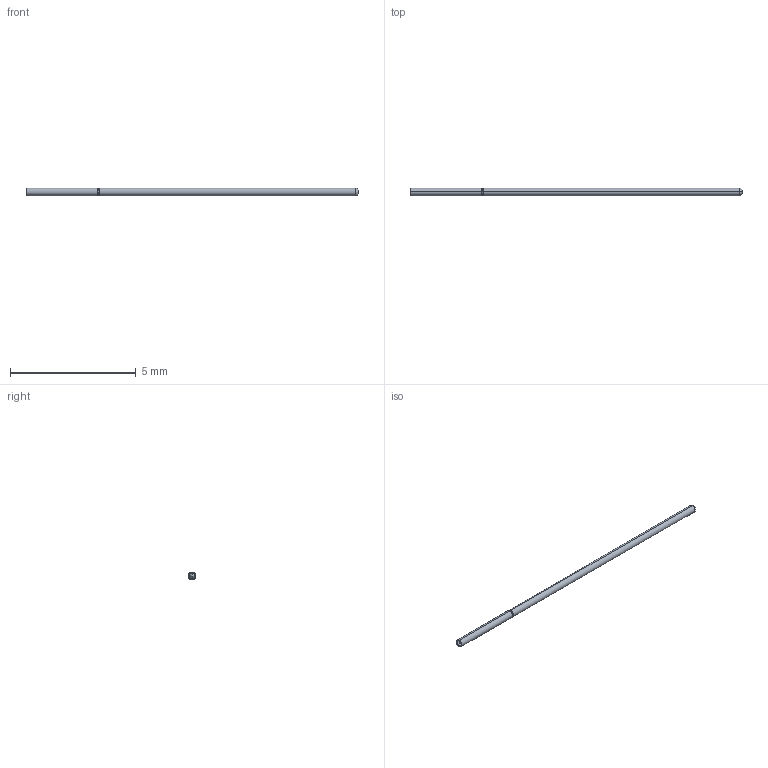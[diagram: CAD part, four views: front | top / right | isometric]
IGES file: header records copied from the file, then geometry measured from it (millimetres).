
Start section: SolidWorks IGES file using analytic representation for surfaces
Global section: file name: Z:\probe solid model mockups\Solidworks models\RMP-22B IGS files\RMP-22B Full.IGS; native system: SolidWorks 2006 by SolidWorks Corporation; preprocessor: SolidWorks 2006 by SolidWorks Corporation; author: tsakatani; date: 071219.101925; units: inch
Bounding box: 13.18 x 0.3 x 0.3 mm (x, y, z)
Surface area: 12.9 mm2 (no closed solid volume)
Topology: 0 solids, 0 shells, 16 faces, 104 edges, 102 vertices
Faces by surface type: bspline 8, revolution 8
